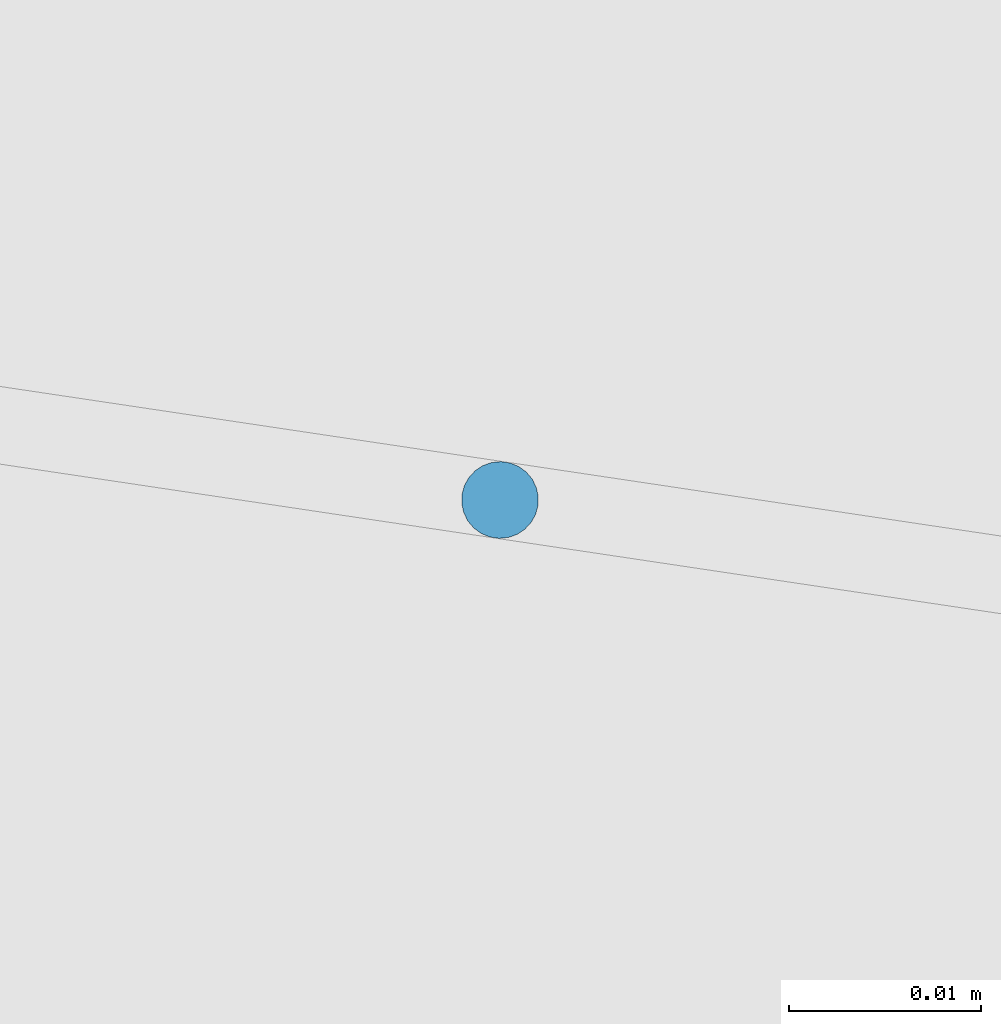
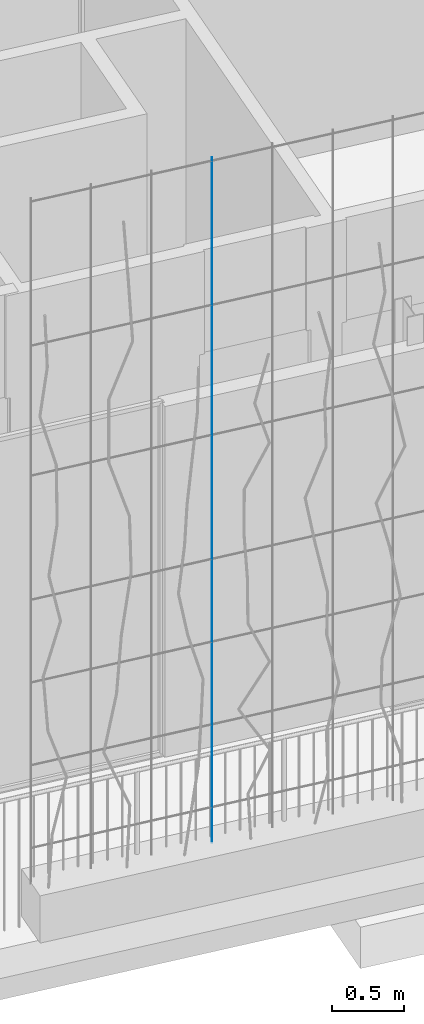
# One storey, part 58 of 142: 1 member, 1 element without a shape of its own.
"""IFC4 building model written with IfcOpenShell, lengths in metres."""

import ifcopenshell
import ifcopenshell.guid

model = None  # the IFC model being written
_history = None  # IfcOwnerHistory: only IFC2X3 demands one
_inside = {}  # id of a spatial element -> (the spatial element, [elements in it])
_under = {}  # id of a project, library or spatial element -> (it, [spatial elements below it])
_declared = {}  # id of a project -> (the project, [libraries it declares])
_typed = {}  # id of a type object -> (the type object, [elements of that type])
_made_of = {}  # id of a material, layer set ... -> (it, [elements and type objects made of it])


def new_model(schema):
    """Start an empty IFC model of exactly this schema.

    Asked for "IFC4X3", IfcOpenShell would pick the latest addendum, in which some entities
    have other attributes; the version numbers below select the first issue.
    IFC2X3 requires an IfcOwnerHistory on every rooted entity: one is made here for all.
    """
    global model, _history
    if schema == "IFC4X3":
        model = ifcopenshell.file(schema_version=(4, 3, 0, 0))
    else:
        model = ifcopenshell.file(schema=schema)
    _inside.clear()
    _under.clear()
    _declared.clear()
    _typed.clear()
    _made_of.clear()
    _history = None
    if model.schema == "IFC2X3":
        org = make("IfcOrganization", Name="unknown")
        user = make(
            "IfcPersonAndOrganization",
            ThePerson=make("IfcPerson", FamilyName="unknown"),
            TheOrganization=org,
        )
        app = make(
            "IfcApplication",
            ApplicationDeveloper=org,
            Version="unknown",
            ApplicationFullName="unknown",
            ApplicationIdentifier="unknown",
        )
        _history = make(
            "IfcOwnerHistory",
            OwningUser=user,
            OwningApplication=app,
            ChangeAction="ADDED",
            CreationDate=0,
        )
    return model


def make(cls, **values):
    """One entity of the class cls with the attributes given. An attribute that is None is left unset."""
    return model.create_entity(
        cls, **{name: value for name, value in values.items() if value is not None}
    )


def rooted(cls, **values):
    """An entity with a GlobalId (a new one), such as an element, a storey or a relation."""
    return make(cls, GlobalId=ifcopenshell.guid.new(), OwnerHistory=_history, **values)


def si_unit(unit_type, name, prefix=None):
    """IfcSIUnit, for example si_unit("LENGTHUNIT", "METRE", prefix="MILLI")."""
    return make("IfcSIUnit", UnitType=unit_type, Prefix=prefix, Name=name)


def assignment(units):
    """IfcUnitAssignment: the units of a project."""
    return None if units is None else make("IfcUnitAssignment", Units=units)


def point(xyz):
    """IfcCartesianPoint."""
    return None if xyz is None else make("IfcCartesianPoint", Coordinates=xyz)


def direction(xyz):
    """IfcDirection."""
    return None if xyz is None else make("IfcDirection", DirectionRatios=xyz)


def frame(location, z_axis=None, x_axis=None):
    """IfcAxis2Placement3D, a coordinate frame: its origin and axes. An axis left out is left unset."""
    return make(
        "IfcAxis2Placement3D",
        Location=point(location),
        Axis=direction(z_axis),
        RefDirection=direction(x_axis),
    )


def origin_with_axes():
    """The frame at (0, 0, 0) with the z axis (0, 0, 1) and the x axis (1, 0, 0) written out."""
    return frame((0.0, 0.0, 0.0), z_axis=(0.0, 0.0, 1.0), x_axis=(1.0, 0.0, 0.0))


def place(relative_to, where):
    """IfcLocalPlacement: puts the frame where relative to a parent placement (None: the world)."""
    return make(
        "IfcLocalPlacement", PlacementRelTo=relative_to, RelativePlacement=where
    )


def context(
    kind, dimensions, precision=None, world=None, true_north=None, identifier=None
):
    """IfcGeometricRepresentationContext, for example the 3D "Model" context."""
    return make(
        "IfcGeometricRepresentationContext",
        ContextIdentifier=identifier,
        ContextType=kind,
        CoordinateSpaceDimension=dimensions,
        Precision=precision,
        WorldCoordinateSystem=world,
        TrueNorth=true_north,
    )


def subcontext(parent, identifier, kind, view, scale=None):
    """IfcGeometricRepresentationSubContext, for example "Body" below "Model"."""
    return make(
        "IfcGeometricRepresentationSubContext",
        ContextIdentifier=identifier,
        ContextType=kind,
        ParentContext=parent,
        TargetScale=scale,
        TargetView=view,
    )


def project(units=None, contexts=None):
    """IfcProject with its units and contexts."""
    return rooted(
        "IfcProject",
        Name="project",
        RepresentationContexts=contexts,
        UnitsInContext=assignment(units),
    )


def spatial(cls, under=None, at=None, **own):
    """A site, building, storey or space (cls), placed at a placement, below another one or the project."""
    s = rooted(cls, ObjectPlacement=at, **own)
    if under is not None:
        _under.setdefault(under.id(), (under, []))[1].append(s)
    return s


def profile(cls, at=None, kind="AREA", **sizes):
    """A parametric profile (cls). Its sizes go by their IFC names, for example OverallWidth=200.0."""
    return make(cls, ProfileType=kind, Position=at, **sizes)


def circle(**sizes):
    """IfcCircleProfileDef."""
    return profile("IfcCircleProfileDef", **sizes)


def extrude(swept, where, along, depth):
    """IfcExtrudedAreaSolid: the profile swept, set in the frame where, extruded along a direction by depth."""
    return make(
        "IfcExtrudedAreaSolid",
        SweptArea=swept,
        Position=where,
        ExtrudedDirection=direction(along),
        Depth=depth,
    )


def shape(context_of_items, identifier, shape_type, items):
    """IfcShapeRepresentation: the items that make up one representation, for example the "Body"."""
    return make(
        "IfcShapeRepresentation",
        ContextOfItems=context_of_items,
        RepresentationIdentifier=identifier,
        RepresentationType=shape_type,
        Items=items,
    )


def material(Name=None, Category=None):
    """IfcMaterial."""
    return make("IfcMaterial", Name=Name, Category=Category)


def material_profile(
    of_material, cross_section, Name=None, Category=None, Priority=None
):
    """IfcMaterialProfile: a cross section and its material."""
    return make(
        "IfcMaterialProfile",
        Name=Name,
        Material=of_material,
        Profile=cross_section,
        Priority=Priority,
        Category=Category,
    )


def profile_set(profiles, Name=None, composite=None):
    """IfcMaterialProfileSet."""
    return make(
        "IfcMaterialProfileSet",
        Name=Name,
        MaterialProfiles=profiles,
        CompositeProfile=composite,
    )


def profile_usage(for_profile_set, cardinal=None, extent=None):
    """IfcMaterialProfileSetUsage: how a profile set lies along its element."""
    return make(
        "IfcMaterialProfileSetUsage",
        ForProfileSet=for_profile_set,
        CardinalPoint=cardinal,
        ReferenceExtent=extent,
    )


def made_of(thing, what):
    """Note that an element or type object is made of a material, layer set ...; save() writes the relation."""
    if what is not None:
        _made_of.setdefault(what.id(), (what, []))[1].append(thing)
    return thing


def type_object(cls, material=None, **own):
    """A type object (cls), such as IfcWallType, which elements share."""
    return made_of(rooted(cls, **own), material)


def element(
    cls,
    number,
    at=None,
    inside=None,
    cuts=None,
    type_object=None,
    material=None,
    context=None,
    identifier="Body",
    shape_type=None,
    held_by="IfcProductDefinitionShape",
    body=None,
    shapes=None,
    **own,
):
    """One element of the class cls, such as IfcWall. Its Tag is "e" and its number.

    at: its placement. inside: the storey or other place that contains it. cuts: it is an
    opening in that element (IfcRelVoidsElement). A single representation is given by context,
    identifier, shape_type and body (its items); several are given by shapes. held_by: the class
    of the entity that holds the representations. save() writes the other relations.
    """
    e = rooted(cls, Tag="e%d" % number, ObjectPlacement=at, **own)
    if body is not None:
        shapes = [shape(context, identifier, shape_type, body)]
    if shapes is not None:
        e.Representation = make(held_by, Representations=shapes)
    if inside is not None:
        _inside.setdefault(inside.id(), (inside, []))[1].append(e)
    if cuts is not None:
        rooted(
            "IfcRelVoidsElement", RelatingBuildingElement=cuts, RelatedOpeningElement=e
        )
    if type_object is not None:
        _typed.setdefault(type_object.id(), (type_object, []))[1].append(e)
    return made_of(e, material)


def aggregate(whole, parts):
    """IfcRelAggregates: a whole, such as a stair, and the parts it consists of."""
    return rooted("IfcRelAggregates", RelatingObject=whole, RelatedObjects=parts)


def save(model, path):
    """Write the relations noted so far, then the file.

    IfcRelAggregates (storeys below a building ...), IfcRelContainedInSpatialStructure (elements
    in a storey), IfcRelDefinesByType, IfcRelAssociatesMaterial and IfcRelDeclares: one each for
    every whole, place, type object, material and project.
    """
    for whole, parts in _under.values():
        aggregate(whole, parts)
    for where, things in _inside.values():
        rooted(
            "IfcRelContainedInSpatialStructure",
            RelatedElements=things,
            RelatingStructure=where,
        )
    for kind, things in _typed.values():
        rooted("IfcRelDefinesByType", RelatedObjects=things, RelatingType=kind)
    for what, things in _made_of.values():
        rooted("IfcRelAssociatesMaterial", RelatedObjects=things, RelatingMaterial=what)
    for by, libraries in _declared.values():
        rooted("IfcRelDeclares", RelatingContext=by, RelatedDefinitions=libraries)
    model.write(path)


model = new_model("IFC4")

# Units and contexts
model_context = context("Model", 3, precision=1e-05, world=origin_with_axes(), true_north=direction((0.0, 1.0)))
body_context = subcontext(model_context, "Body", "Model", "MODEL_VIEW")
ifc_project = project(units=[si_unit("LENGTHUNIT", "METRE"), si_unit("AREAUNIT", "SQUARE_METRE"), si_unit("VOLUMEUNIT", "CUBIC_METRE")], contexts=[model_context])

# Site, building, storey
site_placement = place(None, origin_with_axes())
site = spatial("IfcSite", under=ifc_project, at=site_placement, Name="Lares · Rua das Mercês · artigo 4771")
building_placement = place(site_placement, frame((15.0, 9.7, 14.65), z_axis=(0.0, 0.0, 1.0), x_axis=(0.989015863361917, -0.147809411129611, 0.0)))
building = spatial("IfcBuilding", under=site, at=building_placement, Name="Casa Sobreposta")
storey_placement = place(building_placement, origin_with_axes())
storey = spatial("IfcBuildingStorey", under=building, at=storey_placement, Name="00 · Habitação e estacionamento", Elevation=14.65)

# Assembly, member
assembly_placement = place(storey_placement, origin_with_axes())
assembly = element("IfcElementAssembly", 1, at=assembly_placement, inside=storey, Name="Fachada sul e pátio · estrutura e trepadeiras", ObjectType="LIVING_SHADE_TRELLIS", PredefinedType="USERDEFINED")
ifc_material = material(Name="Aço galvanizado / Stahl verzinkt", Category="steel")
ifc_material_profile = material_profile(ifc_material, circle(Radius=0.002))
ifc_profile_set = profile_set([ifc_material_profile], Name="D0.004")
ifc_profile_usage = profile_usage(ifc_profile_set)
member_type = type_object("IfcMemberType", Name="D0.004 / galvanized", PredefinedType="NOTDEFINED", material=ifc_profile_set)
member_placement = place(assembly_placement, frame((9.85, -1.61, 0.35), z_axis=(0.0, 0.0, 1.0), x_axis=(1.0, 0.0, 0.0)))
member = element("IfcMember", 2, at=member_placement, type_object=member_type, material=ifc_profile_usage, Name="Trepadeiras · fio vertical", context=body_context, shape_type="SweptSolid", body=[
    extrude(circle(Radius=0.002), origin_with_axes(), (0.0, 0.0, 1.0), 5.8),
])
aggregate(assembly, [member])

save(model, "model.ifc")
